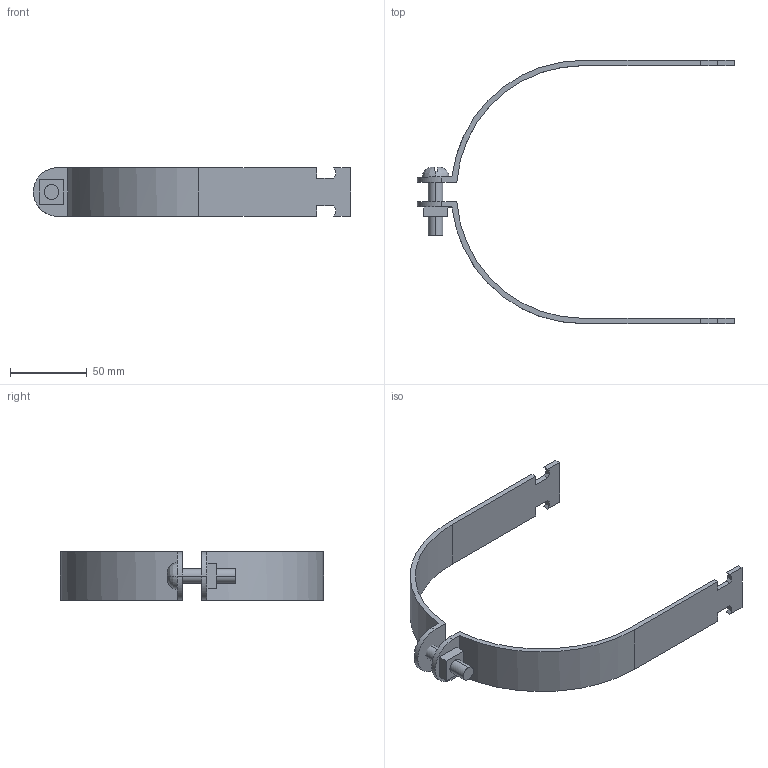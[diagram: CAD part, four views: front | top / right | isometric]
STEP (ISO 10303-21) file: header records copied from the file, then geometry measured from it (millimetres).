
FILE_DESCRIPTION(('TurboCAD Mac Pro'),'Build 980');
FILE_NAME('P2070-64.stp',' ',(''),(''),'ACIS Interop','IMSI','TurboCAD Mac Pro BY IMSI, INCORPORATED');
FILE_SCHEMA(('automotive_design'));
Length unit declared in the file: inch
Products named in the file (5): 1; 2; 3; 4; 5
Bounding box: 207.17 x 171.95 x 31.75 mm (x, y, z)
Volume: 56928 mm3; surface area: 37092.6 mm2
Topology: 4 solids, 4 shells, 71 faces, 186 edges, 124 vertices
Faces by surface type: plane 51, bspline 20
Entity records: 3487 total; most frequent: CARTESIAN_POINT 1050, ORIENTED_EDGE 372, DIRECTION 258, EDGE_CURVE 186, LINE 138, VECTOR 138, VERTEX_POINT 124, STYLED_ITEM 91
